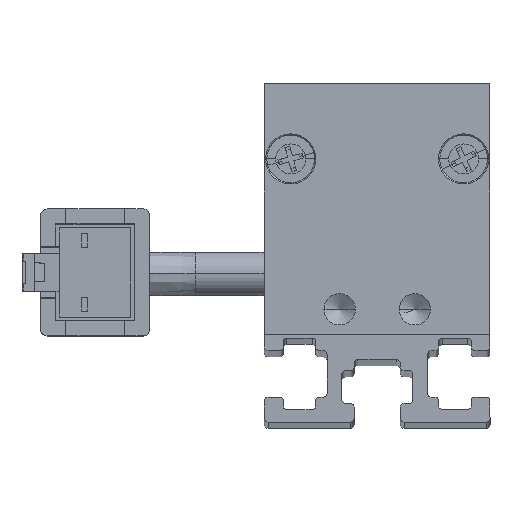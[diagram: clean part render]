
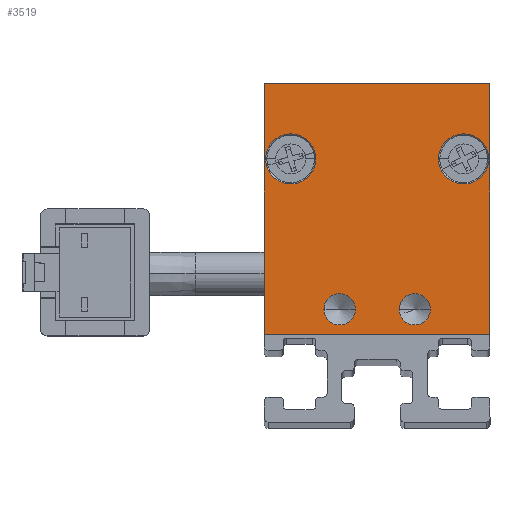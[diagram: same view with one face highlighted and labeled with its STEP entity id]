
A CAD part, top view. The second image highlights one B-rep face of the part: STEP entity #3519.
In plain terms, the highlighted planar face has unit normal (0, 0, 1) as drawn and (0, 0, -1) by its records, which use the part's own axes.
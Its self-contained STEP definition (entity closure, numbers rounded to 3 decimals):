
#6 = VECTOR ( 'NONE', #788, 1000. ) ;
#152 = CARTESIAN_POINT ( 'NONE',  ( -4.9, 14., -2.5 ) ) ;
#368 = CARTESIAN_POINT ( 'NONE',  ( 3., 2., -2.5 ) ) ;
#400 = DIRECTION ( 'NONE',  ( 0., 0., -1. ) ) ;
#420 = ORIENTED_EDGE ( 'NONE', *, *, #8116, .F. ) ;
#506 = LINE ( 'NONE', #3579, #3851 ) ;
#710 = CARTESIAN_POINT ( 'NONE',  ( -1.75, 2., -2.5 ) ) ;
#729 = CARTESIAN_POINT ( 'NONE',  ( 6.9, 14., -2.5 ) ) ;
#736 = VERTEX_POINT ( 'NONE', #11200 ) ;
#788 = DIRECTION ( 'NONE',  ( -1., 0., 0. ) ) ;
#1125 = CARTESIAN_POINT ( 'NONE',  ( -8.9, 14., -2.5 ) ) ;
#1155 = FACE_BOUND ( 'NONE', #6454, .T. ) ;
#1219 = AXIS2_PLACEMENT_3D ( 'NONE', #3002, #6853, #10661 ) ;
#1242 = VERTEX_POINT ( 'NONE', #10669 ) ;
#1328 = ORIENTED_EDGE ( 'NONE', *, *, #5178, .F. ) ;
#1414 = AXIS2_PLACEMENT_3D ( 'NONE', #368, #2310, #6152 ) ;
#1523 = DIRECTION ( 'NONE',  ( -1., 0., 0. ) ) ;
#2114 = VERTEX_POINT ( 'NONE', #10253 ) ;
#2216 = AXIS2_PLACEMENT_3D ( 'NONE', #6545, #7623, #10417 ) ;
#2226 = VECTOR ( 'NONE', #9249, 1000. ) ;
#2267 = CARTESIAN_POINT ( 'NONE',  ( -9., 20., -2.5 ) ) ;
#2310 = DIRECTION ( 'NONE',  ( 0., 0., -1. ) ) ;
#2383 = DIRECTION ( 'NONE',  ( 0., 0., -1. ) ) ;
#2387 = VERTEX_POINT ( 'NONE', #152 ) ;
#2431 = AXIS2_PLACEMENT_3D ( 'NONE', #729, #2722, #11389 ) ;
#2722 = DIRECTION ( 'NONE',  ( 0., 0., -1. ) ) ;
#2823 = CIRCLE ( 'NONE', #2431, 2. ) ;
#3002 = CARTESIAN_POINT ( 'NONE',  ( -6.9, 14., -2.5 ) ) ;
#3097 = PLANE ( 'NONE',  #10070 ) ;
#3197 = ORIENTED_EDGE ( 'NONE', *, *, #6595, .F. ) ;
#3199 = CIRCLE ( 'NONE', #1414, 1.25 ) ;
#3326 = CARTESIAN_POINT ( 'NONE',  ( -6.9, 14., -2.5 ) ) ;
#3411 = ORIENTED_EDGE ( 'NONE', *, *, #8046, .F. ) ;
#3478 = ORIENTED_EDGE ( 'NONE', *, *, #6665, .F. ) ;
#3519 = ADVANCED_FACE ( 'NONE', ( #1155, #4108, #8024, #8921, #11762 ), #3097, .F. ) ;
#3579 = CARTESIAN_POINT ( 'NONE',  ( -9., 20., -2.5 ) ) ;
#3774 = CARTESIAN_POINT ( 'NONE',  ( 4.9, 14., -2.5 ) ) ;
#3851 = VECTOR ( 'NONE', #12053, 1000. ) ;
#4090 = EDGE_CURVE ( 'NONE', #736, #7076, #8880, .T. ) ;
#4108 = FACE_BOUND ( 'NONE', #8135, .T. ) ;
#4275 = EDGE_CURVE ( 'NONE', #2387, #7601, #5020, .T. ) ;
#4289 = DIRECTION ( 'NONE',  ( 0., 0., -1. ) ) ;
#4353 = CARTESIAN_POINT ( 'NONE',  ( 9., 20., -2.5 ) ) ;
#4655 = ORIENTED_EDGE ( 'NONE', *, *, #5865, .F. ) ;
#4738 = EDGE_CURVE ( 'NONE', #11968, #10975, #8063, .T. ) ;
#4981 = DIRECTION ( 'NONE',  ( 0., 1., 0. ) ) ;
#5000 = EDGE_LOOP ( 'NONE', ( #11824, #420 ) ) ;
#5020 = CIRCLE ( 'NONE', #1219, 2. ) ;
#5109 = CARTESIAN_POINT ( 'NONE',  ( -3., 2., -2.5 ) ) ;
#5178 = EDGE_CURVE ( 'NONE', #10975, #11968, #3199, .T. ) ;
#5333 = ORIENTED_EDGE ( 'NONE', *, *, #8649, .F. ) ;
#5565 = LINE ( 'NONE', #11579, #6 ) ;
#5865 = EDGE_CURVE ( 'NONE', #9632, #10536, #5565, .T. ) ;
#5871 = ORIENTED_EDGE ( 'NONE', *, *, #4275, .F. ) ;
#6130 = DIRECTION ( 'NONE',  ( 0., 0., -1. ) ) ;
#6152 = DIRECTION ( 'NONE',  ( -1., 0., 0. ) ) ;
#6354 = EDGE_LOOP ( 'NONE', ( #10333, #1328 ) ) ;
#6454 = EDGE_LOOP ( 'NONE', ( #7114, #3478 ) ) ;
#6545 = CARTESIAN_POINT ( 'NONE',  ( -3., 2., -2.5 ) ) ;
#6595 = EDGE_CURVE ( 'NONE', #2114, #9628, #7277, .T. ) ;
#6665 = EDGE_CURVE ( 'NONE', #1242, #11590, #2823, .T. ) ;
#6853 = DIRECTION ( 'NONE',  ( 0., 0., -1. ) ) ;
#6906 = AXIS2_PLACEMENT_3D ( 'NONE', #3326, #2383, #1523 ) ;
#6947 = DIRECTION ( 'NONE',  ( 0., 0., 1. ) ) ;
#7029 = EDGE_CURVE ( 'NONE', #11590, #1242, #8498, .T. ) ;
#7076 = VERTEX_POINT ( 'NONE', #710 ) ;
#7114 = ORIENTED_EDGE ( 'NONE', *, *, #7029, .F. ) ;
#7277 = LINE ( 'NONE', #11271, #2226 ) ;
#7328 = DIRECTION ( 'NONE',  ( -1., 0., 0. ) ) ;
#7427 = EDGE_CURVE ( 'NONE', #10536, #2114, #506, .T. ) ;
#7601 = VERTEX_POINT ( 'NONE', #1125 ) ;
#7623 = DIRECTION ( 'NONE',  ( 0., 0., -1. ) ) ;
#7959 = LINE ( 'NONE', #9802, #9538 ) ;
#8024 = FACE_BOUND ( 'NONE', #6354, .T. ) ;
#8046 = EDGE_CURVE ( 'NONE', #9628, #9632, #7959, .T. ) ;
#8063 = CIRCLE ( 'NONE', #9695, 1.25 ) ;
#8116 = EDGE_CURVE ( 'NONE', #7076, #736, #11350, .T. ) ;
#8135 = EDGE_LOOP ( 'NONE', ( #5333, #5871 ) ) ;
#8485 = CARTESIAN_POINT ( 'NONE',  ( 4.25, 2., -2.5 ) ) ;
#8498 = CIRCLE ( 'NONE', #11117, 2. ) ;
#8649 = EDGE_CURVE ( 'NONE', #7601, #2387, #12361, .T. ) ;
#8761 = CARTESIAN_POINT ( 'NONE',  ( 1.75, 2., -2.5 ) ) ;
#8880 = CIRCLE ( 'NONE', #2216, 1.25 ) ;
#8921 = FACE_BOUND ( 'NONE', #5000, .T. ) ;
#8994 = DIRECTION ( 'NONE',  ( -1., 0., 0. ) ) ;
#9178 = CARTESIAN_POINT ( 'NONE',  ( 6.9, 14., -2.5 ) ) ;
#9249 = DIRECTION ( 'NONE',  ( 1., 0., 0. ) ) ;
#9538 = VECTOR ( 'NONE', #4981, 1000. ) ;
#9628 = VERTEX_POINT ( 'NONE', #12202 ) ;
#9632 = VERTEX_POINT ( 'NONE', #4353 ) ;
#9695 = AXIS2_PLACEMENT_3D ( 'NONE', #11887, #6130, #9999 ) ;
#9802 = CARTESIAN_POINT ( 'NONE',  ( 9., 20., -2.5 ) ) ;
#9999 = DIRECTION ( 'NONE',  ( -1., 0., 0. ) ) ;
#10070 = AXIS2_PLACEMENT_3D ( 'NONE', #11883, #6947, #10818 ) ;
#10192 = ORIENTED_EDGE ( 'NONE', *, *, #7427, .F. ) ;
#10253 = CARTESIAN_POINT ( 'NONE',  ( -9., 0., -2.5 ) ) ;
#10333 = ORIENTED_EDGE ( 'NONE', *, *, #4738, .F. ) ;
#10417 = DIRECTION ( 'NONE',  ( -1., 0., 0. ) ) ;
#10536 = VERTEX_POINT ( 'NONE', #2267 ) ;
#10661 = DIRECTION ( 'NONE',  ( -1., 0., 0. ) ) ;
#10669 = CARTESIAN_POINT ( 'NONE',  ( 8.9, 14., -2.5 ) ) ;
#10818 = DIRECTION ( 'NONE',  ( 1., 0., 0. ) ) ;
#10975 = VERTEX_POINT ( 'NONE', #8485 ) ;
#11117 = AXIS2_PLACEMENT_3D ( 'NONE', #9178, #4289, #7328 ) ;
#11200 = CARTESIAN_POINT ( 'NONE',  ( -4.25, 2., -2.5 ) ) ;
#11259 = EDGE_LOOP ( 'NONE', ( #10192, #4655, #3411, #3197 ) ) ;
#11271 = CARTESIAN_POINT ( 'NONE',  ( -9., 0., -2.5 ) ) ;
#11350 = CIRCLE ( 'NONE', #11948, 1.25 ) ;
#11389 = DIRECTION ( 'NONE',  ( -1., 0., 0. ) ) ;
#11579 = CARTESIAN_POINT ( 'NONE',  ( -9., 20., -2.5 ) ) ;
#11590 = VERTEX_POINT ( 'NONE', #3774 ) ;
#11762 = FACE_OUTER_BOUND ( 'NONE', #11259, .T. ) ;
#11824 = ORIENTED_EDGE ( 'NONE', *, *, #4090, .F. ) ;
#11883 = CARTESIAN_POINT ( 'NONE',  ( 0., 0., -2.5 ) ) ;
#11887 = CARTESIAN_POINT ( 'NONE',  ( 3., 2., -2.5 ) ) ;
#11948 = AXIS2_PLACEMENT_3D ( 'NONE', #5109, #400, #8994 ) ;
#11968 = VERTEX_POINT ( 'NONE', #8761 ) ;
#12053 = DIRECTION ( 'NONE',  ( 0., -1., 0. ) ) ;
#12202 = CARTESIAN_POINT ( 'NONE',  ( 9., 0., -2.5 ) ) ;
#12361 = CIRCLE ( 'NONE', #6906, 2. ) ;
